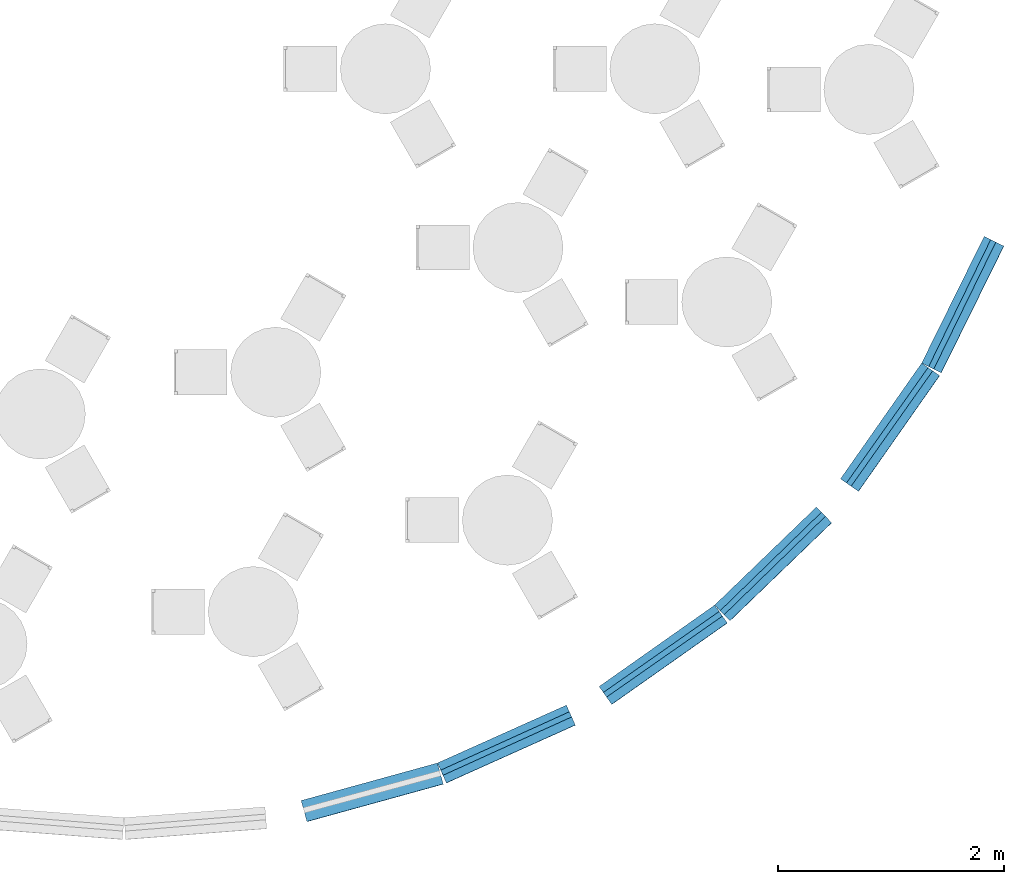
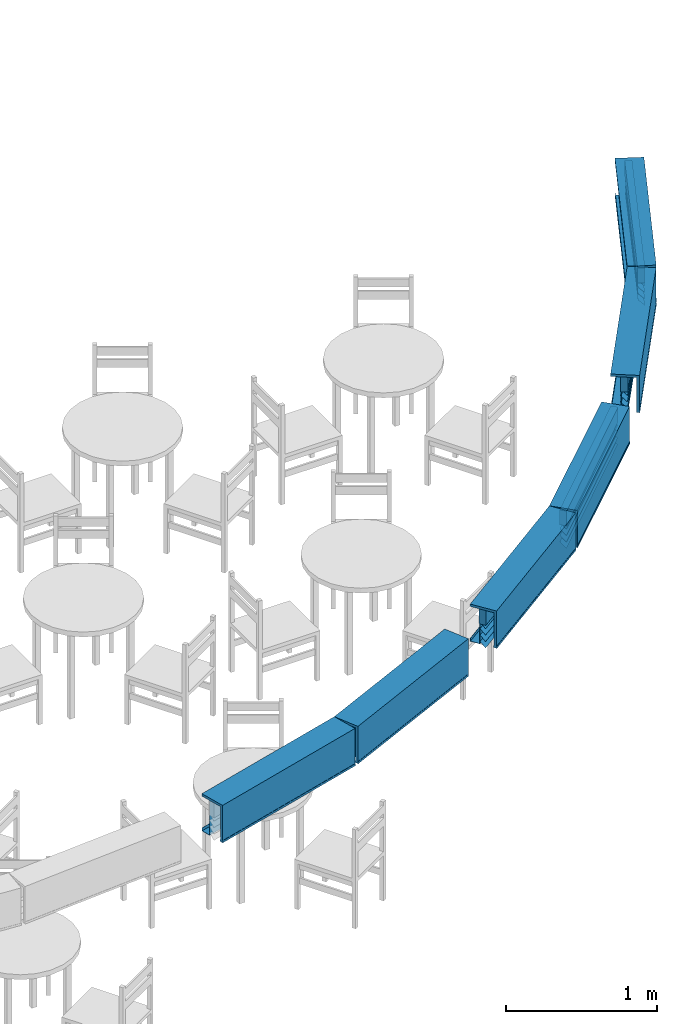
# One storey, part 3 of 6: 11 beams.
"""IFC4 building model written with IfcOpenShell, lengths in millimetres."""

from ifc_helpers import new_model, entity, si_unit, converted_unit, derived_unit, direction, frame, origin_with_axes, place, context, subcontext, project, spatial, line, indexed_curve, outline, composite_profile, extrude, polygons, source, transform, mapped, material, material_profile, profile_set, type_object, element, save


model = new_model("IFC4")

# Units and contexts
model_context = context("Model", 3, precision=0.01, world=origin_with_axes(), true_north=direction((0.0, 1.0)))
body_context = subcontext(model_context, "Body", "Model", "MODEL_VIEW")
ifc_project = project(units=[si_unit("LENGTHUNIT", "METRE", prefix="MILLI"), si_unit("AREAUNIT", "SQUARE_METRE"), si_unit("VOLUMEUNIT", "CUBIC_METRE"), converted_unit("PLANEANGLEUNIT", "DEGREE", entity("IfcPlaneAngleMeasure", 0.0174532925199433), si_unit("PLANEANGLEUNIT", "RADIAN"), dimensions=[0, 0, 0, 0, 0, 0, 0]), converted_unit("TIMEUNIT", "Year", entity("IfcTimeMeasure", 31557600.0), si_unit("TIMEUNIT", "SECOND"), dimensions=[0, 0, 1, 0, 0, 0, 0]), si_unit("MASSUNIT", "GRAM", prefix="KILO"), si_unit("THERMODYNAMICTEMPERATUREUNIT", "DEGREE_CELSIUS"), si_unit("LUMINOUSINTENSITYUNIT", "LUMEN"), si_unit("ENERGYUNIT", "JOULE", prefix="MEGA"), derived_unit("THERMALCONDUCTANCEUNIT", [(si_unit("POWERUNIT", "WATT"), 1), (si_unit("LENGTHUNIT", "METRE"), -1), (si_unit("THERMODYNAMICTEMPERATUREUNIT", "KELVIN"), -1)]), derived_unit("SPECIFICHEATCAPACITYUNIT", [(si_unit("ENERGYUNIT", "JOULE"), 1), (si_unit("MASSUNIT", "GRAM", prefix="KILO"), -1), (si_unit("THERMODYNAMICTEMPERATUREUNIT", "KELVIN"), -1)]), derived_unit("MASSDENSITYUNIT", [(si_unit("MASSUNIT", "GRAM", prefix="KILO"), 1), (si_unit("VOLUMEUNIT", "CUBIC_METRE"), -1)])], contexts=[model_context])

# Site, building, storey
site_placement = place(None, origin_with_axes())
site = spatial("IfcSite", under=ifc_project, at=site_placement, Name="Exteriér", CompositionType="ELEMENT")
building_placement = place(site_placement, origin_with_axes())
building = spatial("IfcBuilding", under=site, at=building_placement, Name="Univerzitní lezecké centrum", CompositionType="ELEMENT")
storey_placement = place(building_placement, origin_with_axes())
storey = spatial("IfcBuildingStorey", under=building, at=storey_placement, Name="1.NP", CompositionType="ELEMENT", Elevation=0.0)

# Beams
beam_type_1 = type_object("IfcBeamType", Name="Benátské žaluzie 27", PredefinedType="BEAM")
shared_shape_1 = source(origin_with_axes(), body_context, "Body", "Tessellation", [
    polygons([(1250.0, 0.0, 2660.0), (0.0, 0.0, 2660.0), (0.0, 50.0, 2660.0), (1250.0, 50.0, 2660.0), (1250.0, 0.0, 2780.0), (0.0, 0.0, 2780.0), (0.0, 50.0, 2780.0), (1250.0, 50.0, 2780.0)], [[[1, 2, 3, 4]], [[2, 1, 5, 6]], [[3, 2, 6, 7]], [[4, 3, 7, 8]], [[1, 4, 8, 5]], [[6, 5, 8, 7]]], closed=True),
    polygons([(250.5, 5.688538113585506, 2500.0), (249.5, 5.688538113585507, 2500.0), (249.0, 6.554563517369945, 2500.0), (249.5, 7.420588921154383, 2500.0), (250.5, 7.420588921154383, 2500.0), (251.0, 6.554563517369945, 2500.0), (250.5, 5.688538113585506, 2660.0), (249.5, 5.688538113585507, 2660.0), (249.0, 6.554563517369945, 2660.0), (249.5, 7.420588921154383, 2660.0), (250.5, 7.420588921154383, 2660.0), (251.0, 6.554563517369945, 2660.0)], [[[1, 2, 3, 4, 5, 6]], [[2, 1, 7, 8]], [[3, 2, 8, 9]], [[4, 3, 9, 10]], [[5, 4, 10, 11]], [[6, 5, 11, 12]], [[1, 6, 12, 7]], [[7, 12, 11, 10, 9, 8]]], closed=True),
    polygons([(250.5, 42.57941107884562, 2500.0), (249.5, 42.57941107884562, 2500.0), (249.0, 43.44543648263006, 2500.0), (249.5, 44.31146188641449, 2500.0), (250.5, 44.31146188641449, 2500.0), (251.0, 43.44543648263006, 2500.0), (250.5, 42.57941107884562, 2660.0), (249.5, 42.57941107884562, 2660.0), (249.0, 43.44543648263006, 2660.0), (249.5, 44.31146188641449, 2660.0), (250.5, 44.31146188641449, 2660.0), (251.0, 43.44543648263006, 2660.0)], [[[1, 2, 3, 4, 5, 6]], [[2, 1, 7, 8]], [[3, 2, 8, 9]], [[4, 3, 9, 10]], [[5, 4, 10, 11]], [[6, 5, 11, 12]], [[1, 6, 12, 7]], [[7, 12, 11, 10, 9, 8]]], closed=True),
    polygons([(1000.5, 5.688538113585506, 2500.0), (999.5, 5.688538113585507, 2500.0), (999.0, 6.554563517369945, 2500.0), (999.5, 7.420588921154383, 2500.0), (1000.5, 7.420588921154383, 2500.0), (1001.0, 6.554563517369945, 2500.0), (1000.5, 5.688538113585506, 2660.0), (999.5, 5.688538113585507, 2660.0), (999.0, 6.554563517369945, 2660.0), (999.5, 7.420588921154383, 2660.0), (1000.5, 7.420588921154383, 2660.0), (1001.0, 6.554563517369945, 2660.0)], [[[1, 2, 3, 4, 5, 6]], [[2, 1, 7, 8]], [[3, 2, 8, 9]], [[4, 3, 9, 10]], [[5, 4, 10, 11]], [[6, 5, 11, 12]], [[1, 6, 12, 7]], [[7, 12, 11, 10, 9, 8]]], closed=True),
    polygons([(1000.5, 42.57941107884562, 2500.0), (999.5, 42.57941107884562, 2500.0), (999.0, 43.44543648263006, 2500.0), (999.5, 44.31146188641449, 2500.0), (1000.5, 44.31146188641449, 2500.0), (1001.0, 43.44543648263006, 2500.0), (1000.5, 42.57941107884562, 2660.0), (999.5, 42.57941107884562, 2660.0), (999.0, 43.44543648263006, 2660.0), (999.5, 44.31146188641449, 2660.0), (1000.5, 44.31146188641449, 2660.0), (1001.0, 43.44543648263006, 2660.0)], [[[1, 2, 3, 4, 5, 6]], [[2, 1, 7, 8]], [[3, 2, 8, 9]], [[4, 3, 9, 10]], [[5, 4, 10, 11]], [[6, 5, 11, 12]], [[1, 6, 12, 7]], [[7, 12, 11, 10, 9, 8]]], closed=True),
    polygons([(1250.0, 2.019029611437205, 2477.019029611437), (0.0, 2.019029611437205, 2477.019029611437), (0.0, 47.9809703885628, 2522.980970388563), (1250.0, 47.9809703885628, 2522.980970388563), (1250.0, 1.94831893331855, 2477.089740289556), (0.0, 1.94831893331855, 2477.089740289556), (0.0, 47.91025971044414, 2523.051681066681), (1250.0, 47.91025971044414, 2523.051681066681)], [[[1, 2, 3, 4]], [[2, 1, 5, 6]], [[3, 2, 6, 7]], [[4, 3, 7, 8]], [[1, 4, 8, 5]], [[6, 5, 8, 7]]], closed=True),
    polygons([(1250.0, 2.019029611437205, 2529.019029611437), (0.0, 2.019029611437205, 2529.019029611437), (0.0, 47.9809703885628, 2574.980970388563), (1250.0, 47.9809703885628, 2574.980970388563), (1250.0, 1.94831893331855, 2529.089740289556), (0.0, 1.94831893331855, 2529.089740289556), (0.0, 47.91025971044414, 2575.051681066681), (1250.0, 47.91025971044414, 2575.051681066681)], [[[1, 2, 3, 4]], [[2, 1, 5, 6]], [[3, 2, 6, 7]], [[4, 3, 7, 8]], [[1, 4, 8, 5]], [[6, 5, 8, 7]]], closed=True),
    polygons([(1250.0, 2.019029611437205, 2581.019029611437), (0.0, 2.019029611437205, 2581.019029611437), (0.0, 47.9809703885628, 2626.980970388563), (1250.0, 47.9809703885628, 2626.980970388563), (1250.0, 1.94831893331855, 2581.089740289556), (0.0, 1.94831893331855, 2581.089740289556), (0.0, 47.91025971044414, 2627.051681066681), (1250.0, 47.91025971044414, 2627.051681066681)], [[[1, 2, 3, 4]], [[2, 1, 5, 6]], [[3, 2, 6, 7]], [[4, 3, 7, 8]], [[1, 4, 8, 5]], [[6, 5, 8, 7]]], closed=True),
    polygons([(1250.0, 2.019029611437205, 2633.019029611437), (0.0, 2.019029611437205, 2633.019029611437), (0.0, 47.9809703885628, 2678.980970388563), (1250.0, 47.9809703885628, 2678.980970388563), (1250.0, 1.94831893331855, 2633.089740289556), (0.0, 1.94831893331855, 2633.089740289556), (0.0, 47.91025971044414, 2679.051681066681), (1250.0, 47.91025971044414, 2679.051681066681)], [[[1, 2, 3, 4]], [[2, 1, 5, 6]], [[3, 2, 6, 7]], [[4, 3, 7, 8]], [[1, 4, 8, 5]], [[6, 5, 8, 7]]], closed=True),
    polygons([(1250.0, 2.019029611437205, 2685.019029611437), (0.0, 2.019029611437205, 2685.019029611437), (0.0, 47.9809703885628, 2730.980970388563), (1250.0, 47.9809703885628, 2730.980970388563), (1250.0, 1.94831893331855, 2685.089740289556), (0.0, 1.94831893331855, 2685.089740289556), (0.0, 47.91025971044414, 2731.051681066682), (1250.0, 47.91025971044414, 2731.051681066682)], [[[1, 2, 3, 4]], [[2, 1, 5, 6]], [[3, 2, 6, 7]], [[4, 3, 7, 8]], [[1, 4, 8, 5]], [[6, 5, 8, 7]]], closed=True),
])
for number, where, z_axis, x_axis, name in (
    (1, (6717.621986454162, -7434.186828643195, 0.0), (0.0, 0.0, 1.0), (0.8196525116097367, 0.5728610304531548, 0.0), "OV11"),
    (2, (8879.86881023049, -5569.91018443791, 0.0), (0.0, 0.0, 1.0), (0.5773985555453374, 0.8164624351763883, 0.0), "OV11"),
):
    element("IfcBeam", number, at=place(storey_placement, frame(where, z_axis=z_axis, x_axis=x_axis)), inside=storey, type_object=beam_type_1, Name=name, PredefinedType="BEAM", context=body_context, shape_type="MappedRepresentation", body=[
        mapped(shared_shape_1, transform((0.0, 0.0, 0.0))),
    ])
shared_shape_2 = source(origin_with_axes(), body_context, "Body", "Tessellation", [
    polygons([(-1250.0, 0.0, 2660.0), (-1250.0, 50.0, 2660.0), (0.0, 50.0, 2660.0), (0.0, 0.0, 2660.0), (-1250.0, 0.0, 2780.0), (-1250.0, 50.0, 2780.0), (0.0, 50.0, 2780.0), (0.0, 0.0, 2780.0)], [[[1, 2, 3, 4]], [[1, 5, 6, 2]], [[2, 6, 7, 3]], [[3, 7, 8, 4]], [[4, 8, 5, 1]], [[8, 7, 6, 5]]], closed=True),
    polygons([(-250.5, 5.688538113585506, 2500.0), (-251.0, 6.554563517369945, 2500.0), (-250.5, 7.420588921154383, 2500.0), (-249.5, 7.420588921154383, 2500.0), (-249.0, 6.554563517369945, 2500.0), (-249.5, 5.688538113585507, 2500.0), (-250.5, 5.688538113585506, 2660.0), (-251.0, 6.554563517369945, 2660.0), (-250.5, 7.420588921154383, 2660.0), (-249.5, 7.420588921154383, 2660.0), (-249.0, 6.554563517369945, 2660.0), (-249.5, 5.688538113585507, 2660.0)], [[[1, 2, 3, 4, 5, 6]], [[1, 7, 8, 2]], [[2, 8, 9, 3]], [[3, 9, 10, 4]], [[4, 10, 11, 5]], [[5, 11, 12, 6]], [[6, 12, 7, 1]], [[7, 12, 11, 10, 9, 8]]], closed=True),
    polygons([(-250.5, 42.57941107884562, 2500.0), (-251.0, 43.44543648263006, 2500.0), (-250.5, 44.31146188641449, 2500.0), (-249.5, 44.31146188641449, 2500.0), (-249.0, 43.44543648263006, 2500.0), (-249.5, 42.57941107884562, 2500.0), (-250.5, 42.57941107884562, 2660.0), (-251.0, 43.44543648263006, 2660.0), (-250.5, 44.31146188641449, 2660.0), (-249.5, 44.31146188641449, 2660.0), (-249.0, 43.44543648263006, 2660.0), (-249.5, 42.57941107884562, 2660.0)], [[[1, 2, 3, 4, 5, 6]], [[1, 7, 8, 2]], [[2, 8, 9, 3]], [[3, 9, 10, 4]], [[4, 10, 11, 5]], [[5, 11, 12, 6]], [[6, 12, 7, 1]], [[7, 12, 11, 10, 9, 8]]], closed=True),
    polygons([(-1000.5, 5.688538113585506, 2500.0), (-1001.0, 6.554563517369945, 2500.0), (-1000.5, 7.420588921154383, 2500.0), (-999.5, 7.420588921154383, 2500.0), (-999.0, 6.554563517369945, 2500.0), (-999.5, 5.688538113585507, 2500.0), (-1000.5, 5.688538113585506, 2660.0), (-1001.0, 6.554563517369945, 2660.0), (-1000.5, 7.420588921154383, 2660.0), (-999.5, 7.420588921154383, 2660.0), (-999.0, 6.554563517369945, 2660.0), (-999.5, 5.688538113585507, 2660.0)], [[[1, 2, 3, 4, 5, 6]], [[1, 7, 8, 2]], [[2, 8, 9, 3]], [[3, 9, 10, 4]], [[4, 10, 11, 5]], [[5, 11, 12, 6]], [[6, 12, 7, 1]], [[7, 12, 11, 10, 9, 8]]], closed=True),
    polygons([(-1000.5, 42.57941107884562, 2500.0), (-1001.0, 43.44543648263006, 2500.0), (-1000.5, 44.31146188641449, 2500.0), (-999.5, 44.31146188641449, 2500.0), (-999.0, 43.44543648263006, 2500.0), (-999.5, 42.57941107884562, 2500.0), (-1000.5, 42.57941107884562, 2660.0), (-1001.0, 43.44543648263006, 2660.0), (-1000.5, 44.31146188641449, 2660.0), (-999.5, 44.31146188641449, 2660.0), (-999.0, 43.44543648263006, 2660.0), (-999.5, 42.57941107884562, 2660.0)], [[[1, 2, 3, 4, 5, 6]], [[1, 7, 8, 2]], [[2, 8, 9, 3]], [[3, 9, 10, 4]], [[4, 10, 11, 5]], [[5, 11, 12, 6]], [[6, 12, 7, 1]], [[7, 12, 11, 10, 9, 8]]], closed=True),
    polygons([(-1250.0, 2.019029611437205, 2477.019029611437), (-1250.0, 47.9809703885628, 2522.980970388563), (0.0, 47.9809703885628, 2522.980970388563), (0.0, 2.019029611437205, 2477.019029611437), (-1250.0, 1.94831893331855, 2477.089740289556), (-1250.0, 47.91025971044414, 2523.051681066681), (0.0, 47.91025971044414, 2523.051681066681), (0.0, 1.94831893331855, 2477.089740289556)], [[[1, 2, 3, 4]], [[1, 5, 6, 2]], [[2, 6, 7, 3]], [[3, 7, 8, 4]], [[4, 8, 5, 1]], [[8, 7, 6, 5]]], closed=True),
    polygons([(-1250.0, 2.019029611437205, 2529.019029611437), (-1250.0, 47.9809703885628, 2574.980970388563), (0.0, 47.9809703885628, 2574.980970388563), (0.0, 2.019029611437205, 2529.019029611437), (-1250.0, 1.94831893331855, 2529.089740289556), (-1250.0, 47.91025971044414, 2575.051681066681), (0.0, 47.91025971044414, 2575.051681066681), (0.0, 1.94831893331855, 2529.089740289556)], [[[1, 2, 3, 4]], [[1, 5, 6, 2]], [[2, 6, 7, 3]], [[3, 7, 8, 4]], [[4, 8, 5, 1]], [[8, 7, 6, 5]]], closed=True),
    polygons([(-1250.0, 2.019029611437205, 2581.019029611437), (-1250.0, 47.9809703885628, 2626.980970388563), (0.0, 47.9809703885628, 2626.980970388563), (0.0, 2.019029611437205, 2581.019029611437), (-1250.0, 1.94831893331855, 2581.089740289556), (-1250.0, 47.91025971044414, 2627.051681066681), (0.0, 47.91025971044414, 2627.051681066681), (0.0, 1.94831893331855, 2581.089740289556)], [[[1, 2, 3, 4]], [[1, 5, 6, 2]], [[2, 6, 7, 3]], [[3, 7, 8, 4]], [[4, 8, 5, 1]], [[8, 7, 6, 5]]], closed=True),
    polygons([(-1250.0, 2.019029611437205, 2633.019029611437), (-1250.0, 47.9809703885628, 2678.980970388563), (0.0, 47.9809703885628, 2678.980970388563), (0.0, 2.019029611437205, 2633.019029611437), (-1250.0, 1.94831893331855, 2633.089740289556), (-1250.0, 47.91025971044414, 2679.051681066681), (0.0, 47.91025971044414, 2679.051681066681), (0.0, 1.94831893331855, 2633.089740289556)], [[[1, 2, 3, 4]], [[1, 5, 6, 2]], [[2, 6, 7, 3]], [[3, 7, 8, 4]], [[4, 8, 5, 1]], [[8, 7, 6, 5]]], closed=True),
    polygons([(-1250.0, 2.019029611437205, 2685.019029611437), (-1250.0, 47.9809703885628, 2730.980970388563), (0.0, 47.9809703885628, 2730.980970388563), (0.0, 2.019029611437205, 2685.019029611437), (-1250.0, 1.94831893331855, 2685.089740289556), (-1250.0, 47.91025971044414, 2731.051681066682), (0.0, 47.91025971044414, 2731.051681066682), (0.0, 1.94831893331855, 2685.089740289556)], [[[1, 2, 3, 4]], [[1, 5, 6, 2]], [[2, 6, 7, 3]], [[3, 7, 8, 4]], [[4, 8, 5, 1]], [[8, 7, 6, 5]]], closed=True),
])
for number, where, z_axis, x_axis, name in (
    (3, (6409.363560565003, -7609.456932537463, 0.0), (0.0, 0.0, 1.0), (0.9107092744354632, 0.4130479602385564, 0.0), "OV11"),
    (4, (8653.10824144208, -5835.194695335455, 0.0), (0.0, 0.0, 1.0), (0.7172353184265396, 0.6968310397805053, 0.0), "OV11"),
    (5, (10159.96061809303, -3410.223205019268, 0.0), (0.0, 0.0, 1.0), (0.439068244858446, 0.8984537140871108, 0.0), "OV11"),
):
    element("IfcBeam", number, at=place(storey_placement, frame(where, z_axis=z_axis, x_axis=x_axis)), inside=storey, type_object=beam_type_1, Name=name, PredefinedType="BEAM", context=body_context, shape_type="MappedRepresentation", body=[
        mapped(shared_shape_2, transform((0.0, 0.0, 0.0))),
    ])
ifc_material_1 = material(Name="Tepelná izolace - purenit")
ifc_material_profile_1 = material_profile(ifc_material_1, outline(indexed_curve([(0.0, 0.0), (20.00000298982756, 0.0), (20.00000214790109, 14.99999879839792), (20.00000298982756, 280.2088283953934), (20.00000298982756, 299.7478608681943), (4.466595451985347e-06, 299.7478608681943), (-2.257316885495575e-06, 14.99999879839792)], segments=[line(1, 2, 3, 4, 5, 6, 7, 1)])), Name="Tepelná izolace - purenit 1")
ifc_material_profile_2 = material_profile(ifc_material_1, outline(indexed_curve([(20.0000037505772, 299.7478608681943), (20.0000037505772, 280.2088261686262), (106.1411099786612, 280.2088249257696), (123.1338630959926, 280.2088249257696), (193.0000299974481, 280.2088261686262), (193.0000299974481, 299.7478608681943)], segments=[line(1, 2, 3, 4, 5, 6, 1)])), Name="Tepelná izolace - purenit 2")
ifc_material_2 = material(Name="Hliník")
ifc_material_profile_3 = material_profile(ifc_material_2, outline(indexed_curve([(-2.257316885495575e-06, 14.99999879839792), (-2.000000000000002, 14.99999879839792), (-1.999995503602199, -2.25731666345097e-06), (-1.999995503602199, -1.99999999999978), (22.00000438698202, -1.99999999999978), (22.00000438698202, 14.99999879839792), (20.00000214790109, 14.99999879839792), (20.00000214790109, 2.239081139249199e-06), (2.239080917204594e-06, 2.239081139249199e-06)], segments=[line(1, 2, 3, 4, 5, 6, 7, 8, 9, 1)])), Name="Hliník 1")
ifc_material_profile_4 = material_profile(ifc_material_2, outline(indexed_curve([(106.1411099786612, 278.2010085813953), (120.9999087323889, 278.2189550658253), (120.9999087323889, -1.999997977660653), (193.0000306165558, -2.022881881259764), (193.0000306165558, 22.99604630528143), (191.0000296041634, 22.99604630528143), (191.0000296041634, 0.0006370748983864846), (123.4722741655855, 0.0006370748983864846), (123.1435086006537, 272.2215421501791), (123.1338630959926, 280.2088249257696), (106.1411099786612, 280.2088249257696)], segments=[line(1, 2, 3, 4, 5, 6, 7, 8, 9, 10, 11, 1)])), Name="Hliník 2")
ifc_profile_set = profile_set([ifc_material_profile_1, ifc_material_profile_2, ifc_material_profile_3, ifc_material_profile_4], Name="Purenitový podomítkový box", composite=composite_profile([outline(indexed_curve([(0.0, 0.0), (20.00000298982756, 0.0), (20.00000214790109, 14.99999879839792), (20.00000298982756, 280.2088283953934), (20.00000298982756, 299.7478608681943), (4.466595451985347e-06, 299.7478608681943), (-2.257316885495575e-06, 14.99999879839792)], segments=[line(1, 2, 3, 4, 5, 6, 7, 1)])), outline(indexed_curve([(20.0000037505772, 299.7478608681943), (20.0000037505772, 280.2088261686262), (106.1411099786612, 280.2088249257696), (123.1338630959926, 280.2088249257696), (193.0000299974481, 280.2088261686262), (193.0000299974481, 299.7478608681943)], segments=[line(1, 2, 3, 4, 5, 6, 1)])), outline(indexed_curve([(-2.257316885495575e-06, 14.99999879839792), (-2.000000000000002, 14.99999879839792), (-1.999995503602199, -2.25731666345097e-06), (-1.999995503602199, -1.99999999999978), (22.00000438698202, -1.99999999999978), (22.00000438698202, 14.99999879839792), (20.00000214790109, 14.99999879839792), (20.00000214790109, 2.239081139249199e-06), (2.239080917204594e-06, 2.239081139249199e-06)], segments=[line(1, 2, 3, 4, 5, 6, 7, 8, 9, 1)])), outline(indexed_curve([(106.1411099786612, 278.2010085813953), (120.9999087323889, 278.2189550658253), (120.9999087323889, -1.999997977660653), (193.0000306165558, -2.022881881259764), (193.0000306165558, 22.99604630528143), (191.0000296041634, 22.99604630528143), (191.0000296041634, 0.0006370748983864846), (123.4722741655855, 0.0006370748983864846), (123.1435086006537, 272.2215421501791), (123.1338630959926, 280.2088249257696), (106.1411099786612, 280.2088249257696)], segments=[line(1, 2, 3, 4, 5, 6, 7, 8, 9, 10, 11, 1)]))]))
beam_type_2 = type_object("IfcBeamType", Name="Purenitový podomítkový box 195 x 302", PredefinedType="BEAM")
beam_1_placement = place(storey_placement, frame((5273.17233856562, -8203.006850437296, 2500.0), z_axis=(0.0, 0.0, 1.0), x_axis=(-0.2655592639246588, 0.9640945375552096, 0.0)))
element("IfcBeam", 6, at=beam_1_placement, inside=storey, type_object=beam_type_2, material=ifc_profile_set, Name="OV10", PredefinedType="BEAM", context=body_context, shape_type="SweptSolid", body=[
    extrude(composite_profile([outline(indexed_curve([(0.0, 0.0), (20.00000298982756, 0.0), (20.00000214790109, 14.99999879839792), (20.00000298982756, 280.2088283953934), (20.00000298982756, 299.7478608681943), (4.466595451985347e-06, 299.7478608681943), (-2.257316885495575e-06, 14.99999879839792)], segments=[line(1, 2, 3, 4, 5, 6, 7, 1)])), outline(indexed_curve([(20.0000037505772, 299.7478608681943), (20.0000037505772, 280.2088261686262), (106.1411099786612, 280.2088249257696), (123.1338630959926, 280.2088249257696), (193.0000299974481, 280.2088261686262), (193.0000299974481, 299.7478608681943)], segments=[line(1, 2, 3, 4, 5, 6, 1)])), outline(indexed_curve([(-2.257316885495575e-06, 14.99999879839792), (-2.000000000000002, 14.99999879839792), (-1.999995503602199, -2.25731666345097e-06), (-1.999995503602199, -1.99999999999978), (22.00000438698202, -1.99999999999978), (22.00000438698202, 14.99999879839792), (20.00000214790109, 14.99999879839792), (20.00000214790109, 2.239081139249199e-06), (2.239080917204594e-06, 2.239081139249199e-06)], segments=[line(1, 2, 3, 4, 5, 6, 7, 8, 9, 1)])), outline(indexed_curve([(106.1411099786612, 278.2010085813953), (120.9999087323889, 278.2189550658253), (120.9999087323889, -1.999997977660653), (193.0000306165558, -2.022881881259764), (193.0000306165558, 22.99604630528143), (191.0000296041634, 22.99604630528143), (191.0000296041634, 0.0006370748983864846), (123.4722741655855, 0.0006370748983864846), (123.1435086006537, 272.2215421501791), (123.1338630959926, 280.2088249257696), (106.1411099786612, 280.2088249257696)], segments=[line(1, 2, 3, 4, 5, 6, 7, 8, 9, 10, 11, 1)]))]), frame((0.0, 1249.999999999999, 0.0), z_axis=(0.0, -1.0, 0.0), x_axis=(1.0, 0.0, 0.0)), (0.0, 0.0, 1.0), 1249.999999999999),
])
for number, where, z_axis, x_axis, name in (
    (7, (5300.940448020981, -8193.018046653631, 2500.0), (0.0, 0.0, 1.0), (0.4094354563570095, -0.9123390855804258, 0.0), "OV10"),
    (8, (7807.5152157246, -6759.379636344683, 2500.0), (0.0, 0.0, 1.0), (0.6939830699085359, -0.7199913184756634, 0.0), "OV10"),
):
    element("IfcBeam", number, at=place(storey_placement, frame(where, z_axis=z_axis, x_axis=x_axis)), inside=storey, type_object=beam_type_2, material=ifc_profile_set, Name=name, PredefinedType="BEAM", context=body_context, shape_type="SweptSolid", body=[
        extrude(composite_profile([outline(indexed_curve([(0.0, 0.0), (20.00000298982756, 0.0), (20.00000214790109, 14.99999879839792), (20.00000298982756, 280.2088283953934), (20.00000298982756, 299.7478608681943), (4.466595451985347e-06, 299.7478608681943), (-2.257316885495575e-06, 14.99999879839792)], segments=[line(1, 2, 3, 4, 5, 6, 7, 1)])), outline(indexed_curve([(20.0000037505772, 299.7478608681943), (20.0000037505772, 280.2088261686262), (106.1411099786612, 280.2088249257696), (123.1338630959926, 280.2088249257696), (193.0000299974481, 280.2088261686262), (193.0000299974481, 299.7478608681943)], segments=[line(1, 2, 3, 4, 5, 6, 1)])), outline(indexed_curve([(-2.257316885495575e-06, 14.99999879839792), (-2.000000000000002, 14.99999879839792), (-1.999995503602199, -2.25731666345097e-06), (-1.999995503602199, -1.99999999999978), (22.00000438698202, -1.99999999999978), (22.00000438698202, 14.99999879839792), (20.00000214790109, 14.99999879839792), (20.00000214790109, 2.239081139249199e-06), (2.239080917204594e-06, 2.239081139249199e-06)], segments=[line(1, 2, 3, 4, 5, 6, 7, 8, 9, 1)])), outline(indexed_curve([(106.1411099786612, 278.2010085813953), (120.9999087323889, 278.2189550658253), (120.9999087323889, -1.999997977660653), (193.0000306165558, -2.022881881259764), (193.0000306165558, 22.99604630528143), (191.0000296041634, 22.99604630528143), (191.0000296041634, 0.0006370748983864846), (123.4722741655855, 0.0006370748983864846), (123.1435086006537, 272.2215421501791), (123.1338630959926, 280.2088249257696), (106.1411099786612, 280.2088249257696)], segments=[line(1, 2, 3, 4, 5, 6, 7, 8, 9, 10, 11, 1)]))]), frame((0.0, 1250.0, 0.0), z_axis=(0.0, 1.0, 0.0), x_axis=(-1.0, 0.0, 0.0)), (0.0, 0.0, -1.0), 1250.0),
    ])
beam_2_placement = place(storey_placement, frame((9662.009991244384, -4591.441716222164, 2500.0), z_axis=(0.0, 0.0, 1.0), x_axis=(-0.8187443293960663, 0.5741582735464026, 0.0)))
element("IfcBeam", 9, at=beam_2_placement, inside=storey, type_object=beam_type_2, material=ifc_profile_set, Name="OV10", PredefinedType="BEAM", context=body_context, shape_type="SweptSolid", body=[
    extrude(composite_profile([outline(indexed_curve([(0.0, 0.0), (20.00000298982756, 0.0), (20.00000214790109, 14.99999879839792), (20.00000298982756, 280.2088283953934), (20.00000298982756, 299.7478608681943), (4.466595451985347e-06, 299.7478608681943), (-2.257316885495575e-06, 14.99999879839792)], segments=[line(1, 2, 3, 4, 5, 6, 7, 1)])), outline(indexed_curve([(20.0000037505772, 299.7478608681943), (20.0000037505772, 280.2088261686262), (106.1411099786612, 280.2088249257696), (123.1338630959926, 280.2088249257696), (193.0000299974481, 280.2088261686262), (193.0000299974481, 299.7478608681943)], segments=[line(1, 2, 3, 4, 5, 6, 1)])), outline(indexed_curve([(-2.257316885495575e-06, 14.99999879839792), (-2.000000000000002, 14.99999879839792), (-1.999995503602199, -2.25731666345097e-06), (-1.999995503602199, -1.99999999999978), (22.00000438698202, -1.99999999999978), (22.00000438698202, 14.99999879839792), (20.00000214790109, 14.99999879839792), (20.00000214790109, 2.239081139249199e-06), (2.239080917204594e-06, 2.239081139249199e-06)], segments=[line(1, 2, 3, 4, 5, 6, 7, 8, 9, 1)])), outline(indexed_curve([(106.1411099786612, 278.2010085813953), (120.9999087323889, 278.2189550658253), (120.9999087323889, -1.999997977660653), (193.0000306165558, -2.022881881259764), (193.0000306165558, 22.99604630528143), (191.0000296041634, 22.99604630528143), (191.0000296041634, 0.0006370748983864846), (123.4722741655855, 0.0006370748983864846), (123.1435086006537, 272.2215421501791), (123.1338630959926, 280.2088249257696), (106.1411099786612, 280.2088249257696)], segments=[line(1, 2, 3, 4, 5, 6, 7, 8, 9, 10, 11, 1)]))]), frame((0.0, 1250.000000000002, 0.0), z_axis=(0.0, -1.0, 0.0), x_axis=(1.0, 0.0, 0.0)), (0.0, 0.0, 1.0), 1250.000000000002),
])
beam_3_placement = place(storey_placement, frame((9677.056706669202, -4566.055884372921, 2500.0), z_axis=(0.0, 0.0, 1.0), x_axis=(0.8967065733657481, -0.4426254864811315, 0.0)))
element("IfcBeam", 10, at=beam_3_placement, inside=storey, type_object=beam_type_2, material=ifc_profile_set, Name="OV10", PredefinedType="BEAM", context=body_context, shape_type="SweptSolid", body=[
    extrude(composite_profile([outline(indexed_curve([(0.0, 0.0), (20.00000298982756, 0.0), (20.00000214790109, 14.99999879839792), (20.00000298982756, 280.2088283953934), (20.00000298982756, 299.7478608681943), (4.466595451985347e-06, 299.7478608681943), (-2.257316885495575e-06, 14.99999879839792)], segments=[line(1, 2, 3, 4, 5, 6, 7, 1)])), outline(indexed_curve([(20.0000037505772, 299.7478608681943), (20.0000037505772, 280.2088261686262), (106.1411099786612, 280.2088249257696), (123.1338630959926, 280.2088249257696), (193.0000299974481, 280.2088261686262), (193.0000299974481, 299.7478608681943)], segments=[line(1, 2, 3, 4, 5, 6, 1)])), outline(indexed_curve([(-2.257316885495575e-06, 14.99999879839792), (-2.000000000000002, 14.99999879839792), (-1.999995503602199, -2.25731666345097e-06), (-1.999995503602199, -1.99999999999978), (22.00000438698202, -1.99999999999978), (22.00000438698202, 14.99999879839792), (20.00000214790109, 14.99999879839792), (20.00000214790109, 2.239081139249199e-06), (2.239080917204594e-06, 2.239081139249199e-06)], segments=[line(1, 2, 3, 4, 5, 6, 7, 8, 9, 1)])), outline(indexed_curve([(106.1411099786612, 278.2010085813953), (120.9999087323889, 278.2189550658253), (120.9999087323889, -1.999997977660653), (193.0000306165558, -2.022881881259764), (193.0000306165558, 22.99604630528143), (191.0000296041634, 22.99604630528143), (191.0000296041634, 0.0006370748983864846), (123.4722741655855, 0.0006370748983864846), (123.1435086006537, 272.2215421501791), (123.1338630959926, 280.2088249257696), (106.1411099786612, 280.2088249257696)], segments=[line(1, 2, 3, 4, 5, 6, 7, 8, 9, 10, 11, 1)]))]), frame((0.0, 1250.0, 0.0), z_axis=(0.0, 1.0, 0.0), x_axis=(-1.0, 0.0, 0.0)), (0.0, 0.0, -1.0), 1250.0),
])
beam_4_placement = place(storey_placement, frame((7784.764729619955, -6778.174834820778, 2500.0), z_axis=(0.0, 0.0, 1.0), x_axis=(-0.5761049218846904, 0.8173757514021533, 0.0)))
element("IfcBeam", 11, at=beam_4_placement, inside=storey, type_object=beam_type_2, material=ifc_profile_set, Name="OV10", PredefinedType="BEAM", context=body_context, shape_type="SweptSolid", body=[
    extrude(composite_profile([outline(indexed_curve([(0.0, 0.0), (20.00000298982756, 0.0), (20.00000214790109, 14.99999879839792), (20.00000298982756, 280.2088283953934), (20.00000298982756, 299.7478608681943), (4.466595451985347e-06, 299.7478608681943), (-2.257316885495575e-06, 14.99999879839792)], segments=[line(1, 2, 3, 4, 5, 6, 7, 1)])), outline(indexed_curve([(20.0000037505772, 299.7478608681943), (20.0000037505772, 280.2088261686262), (106.1411099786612, 280.2088249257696), (123.1338630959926, 280.2088249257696), (193.0000299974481, 280.2088261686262), (193.0000299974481, 299.7478608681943)], segments=[line(1, 2, 3, 4, 5, 6, 1)])), outline(indexed_curve([(-2.257316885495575e-06, 14.99999879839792), (-2.000000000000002, 14.99999879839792), (-1.999995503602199, -2.25731666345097e-06), (-1.999995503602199, -1.99999999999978), (22.00000438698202, -1.99999999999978), (22.00000438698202, 14.99999879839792), (20.00000214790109, 14.99999879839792), (20.00000214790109, 2.239081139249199e-06), (2.239080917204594e-06, 2.239081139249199e-06)], segments=[line(1, 2, 3, 4, 5, 6, 7, 8, 9, 1)])), outline(indexed_curve([(106.1411099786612, 278.2010085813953), (120.9999087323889, 278.2189550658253), (120.9999087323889, -1.999997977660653), (193.0000306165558, -2.022881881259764), (193.0000306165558, 22.99604630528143), (191.0000296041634, 22.99604630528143), (191.0000296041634, 0.0006370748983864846), (123.4722741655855, 0.0006370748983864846), (123.1435086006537, 272.2215421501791), (123.1338630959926, 280.2088249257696), (106.1411099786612, 280.2088249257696)], segments=[line(1, 2, 3, 4, 5, 6, 7, 8, 9, 10, 11, 1)]))]), frame((0.0, 1250.000000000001, 0.0), z_axis=(0.0, -1.0, 0.0), x_axis=(1.0, 0.0, 0.0)), (0.0, 0.0, 1.0), 1250.000000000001),
])

save(model, "model.ifc")
